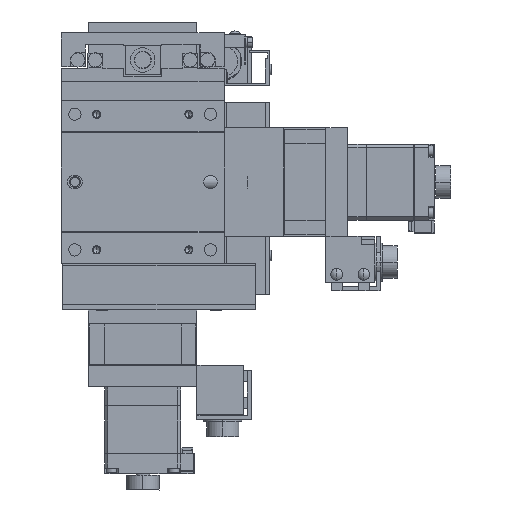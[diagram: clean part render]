
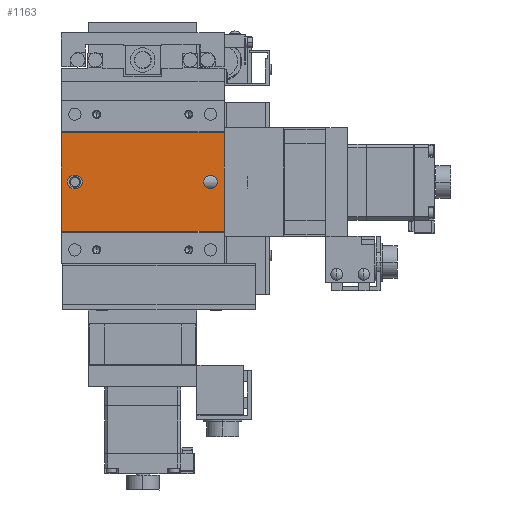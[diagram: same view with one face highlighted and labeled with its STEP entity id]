
A CAD part, front view. The second image highlights one B-rep face of the part: STEP entity #1163.
In plain terms, the highlighted planar face has unit normal (0, -1, 0).
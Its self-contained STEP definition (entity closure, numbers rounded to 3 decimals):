
#1163=ADVANCED_FACE('',(#3416,#3417,#3418),#3419,.F.);
#3416=FACE_BOUND('',#7701,.T.);
#3417=FACE_OUTER_BOUND('',#7702,.T.);
#3418=FACE_BOUND('',#7703,.T.);
#3419=PLANE('',#7704);
#7701=EDGE_LOOP('',(#13263,#13264,#13265,#13266));
#7702=EDGE_LOOP('',(#13267,#13268,#13269,#13270));
#7703=EDGE_LOOP('',(#13271,#13272,#13273));
#7704=AXIS2_PLACEMENT_3D('',#13274,#13275,#13276);
#13263=ORIENTED_EDGE('',*,*,#28194,.F.);
#13264=ORIENTED_EDGE('',*,*,#28195,.F.);
#13265=ORIENTED_EDGE('',*,*,#28196,.F.);
#13266=ORIENTED_EDGE('',*,*,#28197,.F.);
#13267=ORIENTED_EDGE('',*,*,#28179,.T.);
#13268=ORIENTED_EDGE('',*,*,#28198,.F.);
#13269=ORIENTED_EDGE('',*,*,#28199,.F.);
#13270=ORIENTED_EDGE('',*,*,#28200,.T.);
#13271=ORIENTED_EDGE('',*,*,#28084,.F.);
#13272=ORIENTED_EDGE('',*,*,#28083,.F.);
#13273=ORIENTED_EDGE('',*,*,#28201,.F.);
#13274=CARTESIAN_POINT('',(30.0,0.35,18.15));
#13275=DIRECTION('',(-0.0,1.0,0.));
#13276=DIRECTION('',(1.0,0.0,0.0));
#28083=EDGE_CURVE('',#33442,#33444,#33445,.F.);
#28084=EDGE_CURVE('',#33444,#33438,#33446,.F.);
#28179=EDGE_CURVE('',#33623,#33621,#33624,.T.);
#28194=EDGE_CURVE('',#33651,#33652,#33653,.F.);
#28195=EDGE_CURVE('',#33654,#33651,#33655,.T.);
#28196=EDGE_CURVE('',#33656,#33654,#33657,.F.);
#28197=EDGE_CURVE('',#33652,#33656,#33658,.T.);
#28198=EDGE_CURVE('',#33659,#33621,#33660,.T.);
#28199=EDGE_CURVE('',#33661,#33659,#33662,.T.);
#28200=EDGE_CURVE('',#33661,#33623,#33663,.T.);
#28201=EDGE_CURVE('',#33438,#33442,#33664,.F.);
#33438=VERTEX_POINT('',#42028);
#33442=VERTEX_POINT('',#42033);
#33444=VERTEX_POINT('',#42036);
#33445=CIRCLE('',#42037,2.5);
#33446=CIRCLE('',#42038,2.5);
#33621=VERTEX_POINT('',#42268);
#33623=VERTEX_POINT('',#42271);
#33624=LINE('',#42272,#42273);
#33651=VERTEX_POINT('',#42314);
#33652=VERTEX_POINT('',#42315);
#33653=CIRCLE('',#42316,2.5);
#33654=VERTEX_POINT('',#42317);
#33655=LINE('',#42318,#42319);
#33656=VERTEX_POINT('',#42320);
#33657=CIRCLE('',#42321,2.5);
#33658=LINE('',#42322,#42323);
#33659=VERTEX_POINT('',#42324);
#33660=LINE('',#42325,#42326);
#33661=VERTEX_POINT('',#42327);
#33662=LINE('',#42328,#42329);
#33663=LINE('',#42330,#42331);
#33664=CIRCLE('',#42332,2.5);
#42028=CARTESIAN_POINT('',(22.5,0.35,0.));
#42033=CARTESIAN_POINT('',(27.5,0.35,0.));
#42036=CARTESIAN_POINT('',(25.0,0.35,2.5));
#42037=AXIS2_PLACEMENT_3D('',#53601,#53602,#53603);
#42038=AXIS2_PLACEMENT_3D('',#53604,#53605,#53606);
#42268=CARTESIAN_POINT('',(-30.0,0.35,-18.15));
#42271=CARTESIAN_POINT('',(-30.0,0.35,18.15));
#42272=CARTESIAN_POINT('',(-30.0,0.35,18.15));
#42273=VECTOR('',#53777,1000.0);
#42314=CARTESIAN_POINT('',(-25.25,0.35,2.5));
#42315=CARTESIAN_POINT('',(-25.25,0.35,-2.5));
#42316=AXIS2_PLACEMENT_3D('',#53792,#53793,#53794);
#42317=CARTESIAN_POINT('',(-24.75,0.35,2.5));
#42318=CARTESIAN_POINT('',(30.0,0.35,2.5));
#42319=VECTOR('',#53795,1000.0);
#42320=CARTESIAN_POINT('',(-24.75,0.35,-2.5));
#42321=AXIS2_PLACEMENT_3D('',#53796,#53797,#53798);
#42322=CARTESIAN_POINT('',(30.0,0.35,-2.5));
#42323=VECTOR('',#53799,1000.0);
#42324=CARTESIAN_POINT('',(30.0,0.35,-18.15));
#42325=CARTESIAN_POINT('',(30.0,0.35,-18.15));
#42326=VECTOR('',#53800,1000.0);
#42327=CARTESIAN_POINT('',(30.0,0.35,18.15));
#42328=CARTESIAN_POINT('',(30.0,0.35,18.15));
#42329=VECTOR('',#53801,1000.0);
#42330=CARTESIAN_POINT('',(30.0,0.35,18.15));
#42331=VECTOR('',#53802,1000.0);
#42332=AXIS2_PLACEMENT_3D('',#53803,#53804,#53805);
#53601=CARTESIAN_POINT('',(25.0,0.35,0.0));
#53602=DIRECTION('',(0.0,1.0,0.));
#53603=DIRECTION('',(0.0,0.,1.0));
#53604=CARTESIAN_POINT('',(25.0,0.35,0.0));
#53605=DIRECTION('',(0.0,1.0,0.));
#53606=DIRECTION('',(0.0,0.,1.0));
#53777=DIRECTION('',(0.0,0.,-1.0));
#53792=CARTESIAN_POINT('',(-25.25,0.35,0.));
#53793=DIRECTION('',(0.0,1.0,0.));
#53794=DIRECTION('',(0.0,0.,1.0));
#53795=DIRECTION('',(-1.0,0.0,0.0));
#53796=CARTESIAN_POINT('',(-24.75,0.35,0.));
#53797=DIRECTION('',(0.0,1.0,0.));
#53798=DIRECTION('',(0.0,0.,1.0));
#53799=DIRECTION('',(1.0,0.0,0.0));
#53800=DIRECTION('',(-1.0,0.0,0.0));
#53801=DIRECTION('',(0.0,0.,-1.0));
#53802=DIRECTION('',(-1.0,0.0,0.0));
#53803=CARTESIAN_POINT('',(25.0,0.35,0.0));
#53804=DIRECTION('',(0.0,1.0,0.));
#53805=DIRECTION('',(0.0,0.,1.0));
